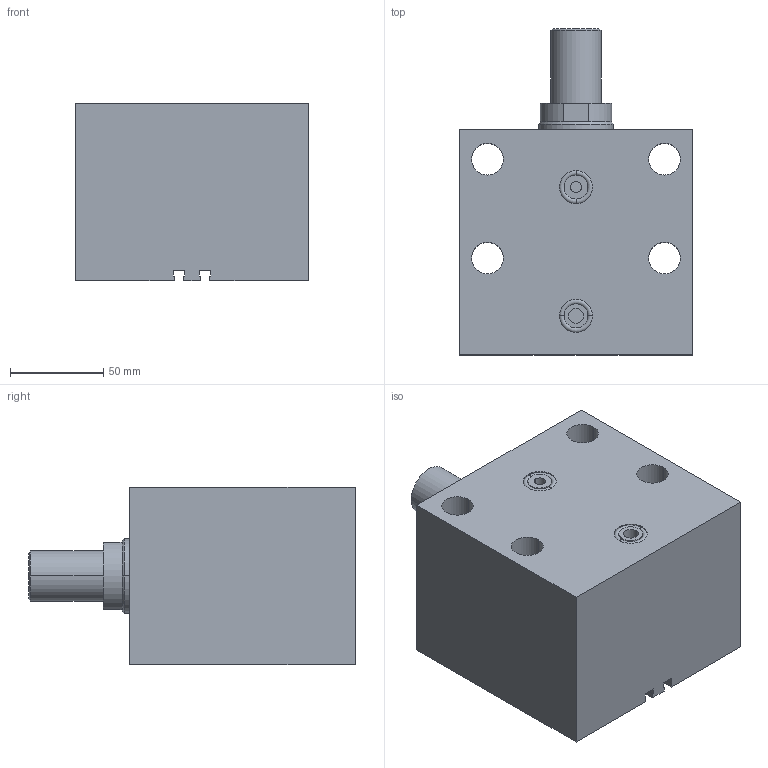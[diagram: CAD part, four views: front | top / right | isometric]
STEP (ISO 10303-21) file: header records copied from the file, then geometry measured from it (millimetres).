
FILE_DESCRIPTION (( 'STEP AP203' ), '1' );
FILE_NAME ('GERMA_Blockzylinder_703-063-030-A.STEP', '2016-07-26T09:37:13', ( '' ), ( '' ), 'SwSTEP 2.0', 'SolidWorks 2015', '' );
FILE_SCHEMA (( 'CONFIG_CONTROL_DESIGN' ));
Length unit declared in the file: millimetre
Products named in the file (3): GH-700-063_GH-703-063-030; Kolben_MT 70x-063_Kolben_MT DU.63-Hub30-AG; GERMA_Blockzylinder_703-063-030-A
Assembly tree (2 placements, depth 2):
  GERMA_Blockzylinder_703-063-030-A
    GH-700-063_GH-703-063-030
    Kolben_MT 70x-063_Kolben_MT DU.63-Hub30-AG
Bounding box: 125 x 175 x 95 mm (x, y, z)
Volume: 1324168.1 mm3; surface area: 147952.1 mm2
Topology: 2 solids, 2 shells, 96 faces, 220 edges, 137 vertices
Faces by surface type: cylinder 41, plane 39, cone 12, torus 4
Entity records: 3010 total; most frequent: DIRECTION 515, CARTESIAN_POINT 454, ORIENTED_EDGE 432, EDGE_CURVE 216, AXIS2_PLACEMENT_3D 198, VERTEX_POINT 137, LINE 119, VECTOR 119
